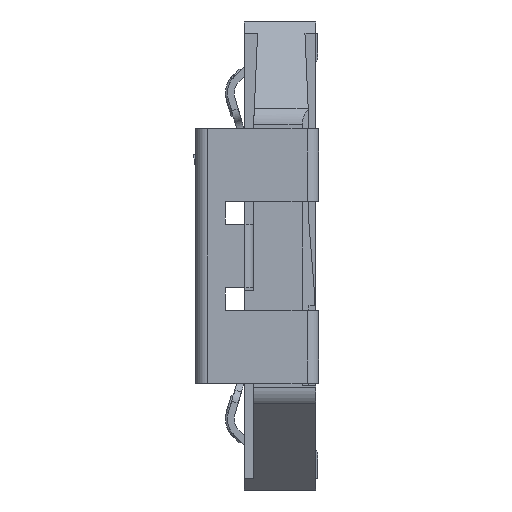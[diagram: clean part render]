
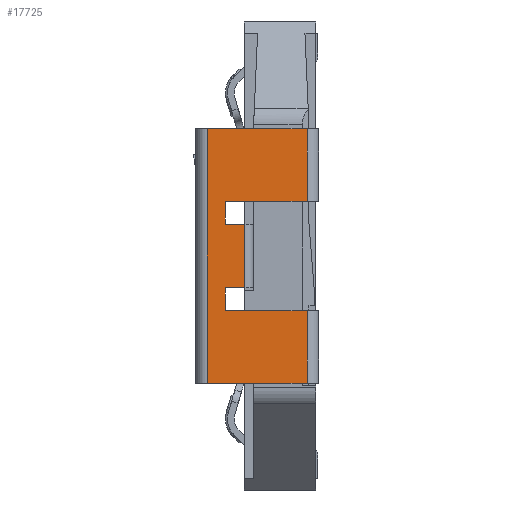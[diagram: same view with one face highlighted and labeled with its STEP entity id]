
A CAD part, left-side view. The second image highlights one B-rep face of the part: STEP entity #17725.
In plain terms, the highlighted planar face has unit normal (-1, 0, 0).
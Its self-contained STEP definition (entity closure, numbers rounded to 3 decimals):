
#2418=DIRECTION('',(0.,-1.,0.));
#2419=VECTOR('',#2418,1.8);
#2420=CARTESIAN_POINT('',(-7.8,1.205,-1.2));
#2421=LINE('',#2420,#2419);
#2422=DIRECTION('',(0.,1.,0.));
#2423=VECTOR('',#2422,2.2);
#2424=CARTESIAN_POINT('',(-7.8,-0.595,-2.8));
#2425=LINE('',#2424,#2423);
#2426=DIRECTION('',(0.,-1.,0.));
#2427=VECTOR('',#2426,2.2);
#2428=CARTESIAN_POINT('',(-7.8,1.605,2.8));
#2429=LINE('',#2428,#2427);
#2430=DIRECTION('',(0.,1.,0.));
#2431=VECTOR('',#2430,1.8);
#2432=CARTESIAN_POINT('',(-7.8,-0.595,1.2));
#2433=LINE('',#2432,#2431);
#2434=DIRECTION('',(0.,0.,-1.));
#2435=VECTOR('',#2434,0.5);
#2436=CARTESIAN_POINT('',(-7.8,1.205,1.2));
#2437=LINE('',#2436,#2435);
#2438=DIRECTION('',(0.,0.,-1.));
#2439=VECTOR('',#2438,0.5);
#2440=CARTESIAN_POINT('',(-7.8,1.205,-0.7));
#2441=LINE('',#2440,#2439);
#2446=DIRECTION('',(0.,0.,-1.));
#2447=VECTOR('',#2446,1.6);
#2448=CARTESIAN_POINT('',(-7.8,-0.595,-1.2));
#2449=LINE('',#2448,#2447);
#2543=DIRECTION('',(0.,0.,1.));
#2544=VECTOR('',#2543,5.6);
#2545=CARTESIAN_POINT('',(-7.8,1.605,-2.8));
#2546=LINE('',#2545,#2544);
#2583=DIRECTION('',(0.,0.,-1.));
#2584=VECTOR('',#2583,1.6);
#2585=CARTESIAN_POINT('',(-7.8,-0.595,2.8));
#2586=LINE('',#2585,#2584);
#2747=DIRECTION('',(0.,1.,0.));
#2748=VECTOR('',#2747,0.42);
#2749=CARTESIAN_POINT('',(-7.8,0.785,0.7));
#2750=LINE('',#2749,#2748);
#2785=DIRECTION('',(0.,-1.,0.));
#2786=VECTOR('',#2785,0.42);
#2787=CARTESIAN_POINT('',(-7.8,1.205,-0.7));
#2788=LINE('',#2787,#2786);
#2789=DIRECTION('',(0.,0.,-1.));
#2790=VECTOR('',#2789,1.4);
#2791=CARTESIAN_POINT('',(-7.8,0.785,0.7));
#2792=LINE('',#2791,#2790);
#12506=CARTESIAN_POINT('',(-7.8,1.205,1.2));
#12507=CARTESIAN_POINT('',(-7.8,1.205,0.7));
#12508=VERTEX_POINT('',#12506);
#12509=VERTEX_POINT('',#12507);
#12518=CARTESIAN_POINT('',(-7.8,1.205,-0.7));
#12519=VERTEX_POINT('',#12518);
#12520=CARTESIAN_POINT('',(-7.8,1.205,-1.2));
#12521=VERTEX_POINT('',#12520);
#12530=CARTESIAN_POINT('',(-7.8,-0.595,-1.2));
#12531=VERTEX_POINT('',#12530);
#12536=CARTESIAN_POINT('',(-7.8,-0.595,1.2));
#12537=VERTEX_POINT('',#12536);
#12550=CARTESIAN_POINT('',(-7.8,-0.595,2.8));
#12551=VERTEX_POINT('',#12550);
#12582=CARTESIAN_POINT('',(-7.8,1.605,2.8));
#12583=VERTEX_POINT('',#12582);
#12588=CARTESIAN_POINT('',(-7.8,1.605,-2.8));
#12589=VERTEX_POINT('',#12588);
#12590=CARTESIAN_POINT('',(-7.8,-0.595,-2.8));
#12591=VERTEX_POINT('',#12590);
#12594=CARTESIAN_POINT('',(-7.8,0.785,-0.7));
#12595=VERTEX_POINT('',#12594);
#12596=CARTESIAN_POINT('',(-7.8,0.785,0.7));
#12597=VERTEX_POINT('',#12596);
#17697=CARTESIAN_POINT('',(-7.8,0.505,0.));
#17698=DIRECTION('',(1.,0.,0.));
#17699=DIRECTION('',(0.,1.,0.));
#17700=AXIS2_PLACEMENT_3D('',#17697,#17698,#17699);
#17701=PLANE('',#17700);
#17702=ORIENTED_EDGE('',*,*,#17638,.T.);
#17704=ORIENTED_EDGE('',*,*,#17703,.T.);
#17705=ORIENTED_EDGE('',*,*,#17565,.T.);
#17707=ORIENTED_EDGE('',*,*,#17706,.T.);
#17709=ORIENTED_EDGE('',*,*,#17708,.T.);
#17711=ORIENTED_EDGE('',*,*,#17710,.T.);
#17712=ORIENTED_EDGE('',*,*,#17679,.T.);
#17714=ORIENTED_EDGE('',*,*,#17713,.T.);
#17716=ORIENTED_EDGE('',*,*,#17715,.F.);
#17718=ORIENTED_EDGE('',*,*,#17717,.T.);
#17720=ORIENTED_EDGE('',*,*,#17719,.F.);
#17722=ORIENTED_EDGE('',*,*,#17721,.T.);
#17723=EDGE_LOOP('',(#17702,#17704,#17705,#17707,#17709,#17711,#17712,#17714,
#17716,#17718,#17720,#17722));
#17724=FACE_OUTER_BOUND('',#17723,.F.);
#17565=EDGE_CURVE('',#12591,#12589,#2425,.T.);
#17638=EDGE_CURVE('',#12521,#12531,#2421,.T.);
#17679=EDGE_CURVE('',#12537,#12508,#2433,.T.);
#17703=EDGE_CURVE('',#12531,#12591,#2449,.T.);
#17706=EDGE_CURVE('',#12589,#12583,#2546,.T.);
#17708=EDGE_CURVE('',#12583,#12551,#2429,.T.);
#17710=EDGE_CURVE('',#12551,#12537,#2586,.T.);
#17713=EDGE_CURVE('',#12508,#12509,#2437,.T.);
#17715=EDGE_CURVE('',#12597,#12509,#2750,.T.);
#17717=EDGE_CURVE('',#12597,#12595,#2792,.T.);
#17719=EDGE_CURVE('',#12519,#12595,#2788,.T.);
#17721=EDGE_CURVE('',#12519,#12521,#2441,.T.);
#17725=ADVANCED_FACE('',(#17724),#17701,.F.);
